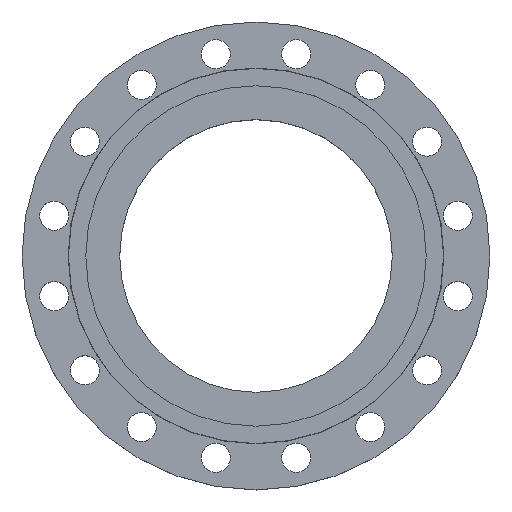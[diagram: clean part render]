
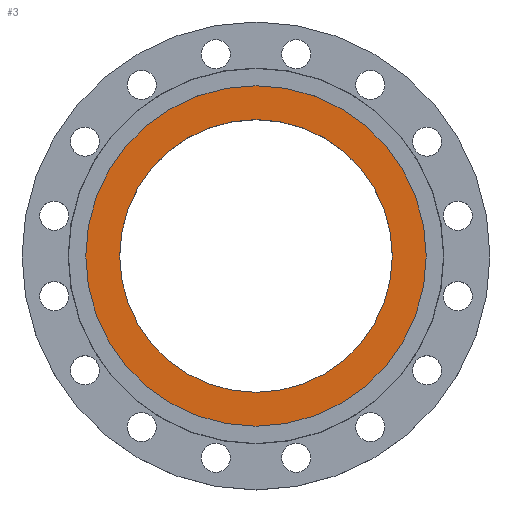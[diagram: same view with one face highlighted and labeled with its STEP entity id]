
A CAD part, top view. The second image highlights one B-rep face of the part: STEP entity #3.
In plain terms, the highlighted planar face has unit normal (0, 0, 1).
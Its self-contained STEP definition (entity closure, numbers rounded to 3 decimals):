
#3 = ADVANCED_FACE ( 'NONE', ( #1433, #1432 ), #1431, .T. ) ;
#54 = CARTESIAN_POINT ( 'NONE',  ( 211., 0., -5. ) ) ;
#81 = EDGE_CURVE ( 'NONE', #1435, #1458, #566, .T. ) ;
#87 = CARTESIAN_POINT ( 'NONE',  ( -211., 0., -5. ) ) ;
#417 = CARTESIAN_POINT ( 'NONE',  ( 169., 0., -5. ) ) ;
#478 = CARTESIAN_POINT ( 'NONE',  ( -169., 0., -5. ) ) ;
#566 = CIRCLE ( 'NONE', #567, 169. ) ;
#567 = AXIS2_PLACEMENT_3D ( 'NONE', #1312, #1306, #1304 ) ;
#760 = DIRECTION ( 'NONE',  ( 1., 0., 0. ) ) ;
#761 = DIRECTION ( 'NONE',  ( 0., 0., -1. ) ) ;
#762 = CARTESIAN_POINT ( 'NONE',  ( 0., 0., -5. ) ) ;
#770 = DIRECTION ( 'NONE',  ( -1., 0., 0. ) ) ;
#771 = DIRECTION ( 'NONE',  ( 0., 0., -1. ) ) ;
#772 = CARTESIAN_POINT ( 'NONE',  ( 0., 0., -5. ) ) ;
#774 = DIRECTION ( 'NONE',  ( -1., 0., 0. ) ) ;
#775 = DIRECTION ( 'NONE',  ( 0., 0., -1. ) ) ;
#776 = CARTESIAN_POINT ( 'NONE',  ( 0., 0., -5. ) ) ;
#895 = EDGE_CURVE ( 'NONE', #1698, #1609, #1064, .T. ) ;
#904 = EDGE_CURVE ( 'NONE', #1609, #1698, #1074, .T. ) ;
#909 = EDGE_CURVE ( 'NONE', #1458, #1435, #1080, .T. ) ;
#1064 = CIRCLE ( 'NONE', #1065, 211. ) ;
#1065 = AXIS2_PLACEMENT_3D ( 'NONE', #776, #775, #774 ) ;
#1074 = CIRCLE ( 'NONE', #1079, 211. ) ;
#1079 = AXIS2_PLACEMENT_3D ( 'NONE', #772, #771, #770 ) ;
#1080 = CIRCLE ( 'NONE', #1085, 169. ) ;
#1085 = AXIS2_PLACEMENT_3D ( 'NONE', #762, #761, #760 ) ;
#1281 = AXIS2_PLACEMENT_3D ( 'NONE', #1430, #1429, #1427 ) ;
#1304 = DIRECTION ( 'NONE',  ( 1., 0., 0. ) ) ;
#1306 = DIRECTION ( 'NONE',  ( 0., 0., -1. ) ) ;
#1312 = CARTESIAN_POINT ( 'NONE',  ( 0., 0., -5. ) ) ;
#1427 = DIRECTION ( 'NONE',  ( 1., 0., 0. ) ) ;
#1429 = DIRECTION ( 'NONE',  ( 0., 0., 1. ) ) ;
#1430 = CARTESIAN_POINT ( 'NONE',  ( 211., 0., -5. ) ) ;
#1431 = PLANE ( 'NONE',  #1281 ) ;
#1432 = FACE_OUTER_BOUND ( 'NONE', #1594, .T. ) ;
#1433 = FACE_BOUND ( 'NONE', #1542, .T. ) ;
#1435 = VERTEX_POINT ( 'NONE', #478 ) ;
#1458 = VERTEX_POINT ( 'NONE', #417 ) ;
#1542 = EDGE_LOOP ( 'NONE', ( #1561, #1559 ) ) ;
#1554 = ORIENTED_EDGE ( 'NONE', *, *, #895, .F. ) ;
#1556 = ORIENTED_EDGE ( 'NONE', *, *, #904, .F. ) ;
#1559 = ORIENTED_EDGE ( 'NONE', *, *, #909, .T. ) ;
#1561 = ORIENTED_EDGE ( 'NONE', *, *, #81, .T. ) ;
#1594 = EDGE_LOOP ( 'NONE', ( #1556, #1554 ) ) ;
#1609 = VERTEX_POINT ( 'NONE', #87 ) ;
#1698 = VERTEX_POINT ( 'NONE', #54 ) ;
